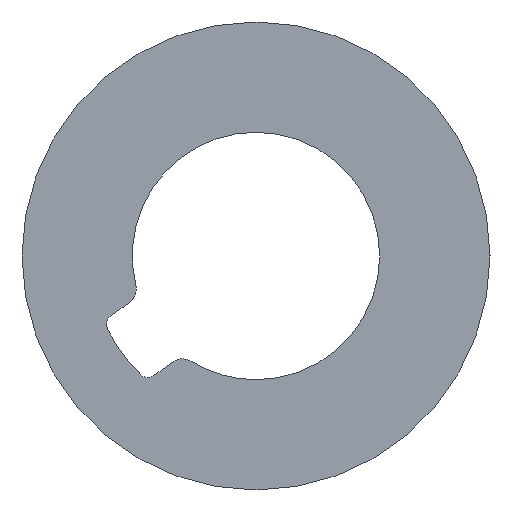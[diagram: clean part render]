
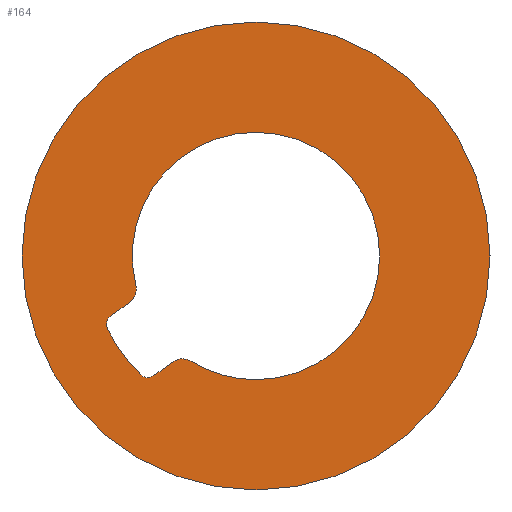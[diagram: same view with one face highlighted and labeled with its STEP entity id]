
A CAD part, left-side view. The second image highlights one B-rep face of the part: STEP entity #164.
In plain terms, the highlighted planar face has unit normal (-1, 0, 0).
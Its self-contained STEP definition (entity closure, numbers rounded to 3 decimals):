
#20 = AXIS2_PLACEMENT_3D ( 'NONE', #438, #437, #436 ) ;
#30 = AXIS2_PLACEMENT_3D ( 'NONE', #477, #476, #475 ) ;
#31 = AXIS2_PLACEMENT_3D ( 'NONE', #482, #481, #480 ) ;
#34 = AXIS2_PLACEMENT_3D ( 'NONE', #493, #492, #491 ) ;
#35 = AXIS2_PLACEMENT_3D ( 'NONE', #498, #497, #496 ) ;
#39 = AXIS2_PLACEMENT_3D ( 'NONE', #514, #513, #512 ) ;
#40 = AXIS2_PLACEMENT_3D ( 'NONE', #303, #302, #301 ) ;
#41 = AXIS2_PLACEMENT_3D ( 'NONE', #306, #305, #304 ) ;
#42 = AXIS2_PLACEMENT_3D ( 'NONE', #309, #308, #307 ) ;
#43 = AXIS2_PLACEMENT_3D ( 'NONE', #314, #313, #312 ) ;
#44 = AXIS2_PLACEMENT_3D ( 'NONE', #317, #316, #315 ) ;
#45 = AXIS2_PLACEMENT_3D ( 'NONE', #322, #321, #320 ) ;
#50 = EDGE_CURVE ( 'NONE', #350, #348, #198, .T. ) ;
#51 = EDGE_CURVE ( 'NONE', #337, #336, #199, .T. ) ;
#52 = EDGE_CURVE ( 'NONE', #336, #341, #196, .T. ) ;
#53 = EDGE_CURVE ( 'NONE', #342, #332, #194, .T. ) ;
#54 = EDGE_CURVE ( 'NONE', #332, #343, #195, .T. ) ;
#55 = EDGE_CURVE ( 'NONE', #343, #330, #192, .T. ) ;
#56 = EDGE_CURVE ( 'NONE', #335, #331, #191, .T. ) ;
#57 = EDGE_CURVE ( 'NONE', #331, #337, #189, .T. ) ;
#64 = EDGE_CURVE ( 'NONE', #330, #335, #177, .T. ) ;
#70 = EDGE_CURVE ( 'NONE', #341, #349, #101, .T. ) ;
#72 = EDGE_CURVE ( 'NONE', #354, #342, #122, .T. ) ;
#76 = EDGE_CURVE ( 'NONE', #349, #354, #113, .T. ) ;
#78 = EDGE_CURVE ( 'NONE', #348, #350, #125, .T. ) ;
#101 = CIRCLE ( 'NONE', #35, 3.7 ) ;
#113 = CIRCLE ( 'NONE', #31, 3.7 ) ;
#122 = CIRCLE ( 'NONE', #34, 3.7 ) ;
#125 = CIRCLE ( 'NONE', #30, 7. ) ;
#137 = FACE_BOUND ( 'NONE', #208, .T. ) ;
#147 = FACE_OUTER_BOUND ( 'NONE', #207, .T. ) ;
#164 = ADVANCED_FACE ( 'NONE', ( #147, #137 ), #439, .F. ) ;
#177 = CIRCLE ( 'NONE', #39, 0.3 ) ;
#189 = CIRCLE ( 'NONE', #40, 0.3 ) ;
#191 = CIRCLE ( 'NONE', #41, 4.95 ) ;
#192 = CIRCLE ( 'NONE', #42, 0.3 ) ;
#193 = VECTOR ( 'NONE', #310, 1000. ) ;
#194 = CIRCLE ( 'NONE', #43, 0.5 ) ;
#195 = LINE ( 'NONE', #311, #193 ) ;
#196 = CIRCLE ( 'NONE', #44, 0.5 ) ;
#197 = VECTOR ( 'NONE', #318, 1000. ) ;
#198 = CIRCLE ( 'NONE', #45, 7. ) ;
#199 = LINE ( 'NONE', #319, #197 ) ;
#207 = EDGE_LOOP ( 'NONE', ( #251, #252 ) ) ;
#208 = EDGE_LOOP ( 'NONE', ( #253, #254, #255, #256, #257, #258, #259, #260, #261, #262, #263 ) ) ;
#251 = ORIENTED_EDGE ( 'NONE', *, *, #50, .F. ) ;
#252 = ORIENTED_EDGE ( 'NONE', *, *, #78, .F. ) ;
#253 = ORIENTED_EDGE ( 'NONE', *, *, #51, .T. ) ;
#254 = ORIENTED_EDGE ( 'NONE', *, *, #52, .T. ) ;
#255 = ORIENTED_EDGE ( 'NONE', *, *, #70, .T. ) ;
#256 = ORIENTED_EDGE ( 'NONE', *, *, #76, .T. ) ;
#257 = ORIENTED_EDGE ( 'NONE', *, *, #72, .T. ) ;
#258 = ORIENTED_EDGE ( 'NONE', *, *, #53, .T. ) ;
#259 = ORIENTED_EDGE ( 'NONE', *, *, #54, .T. ) ;
#260 = ORIENTED_EDGE ( 'NONE', *, *, #55, .T. ) ;
#261 = ORIENTED_EDGE ( 'NONE', *, *, #64, .T. ) ;
#262 = ORIENTED_EDGE ( 'NONE', *, *, #56, .T. ) ;
#263 = ORIENTED_EDGE ( 'NONE', *, *, #57, .T. ) ;
#301 = DIRECTION ( 'NONE',  ( 0., 0., -1. ) ) ;
#302 = DIRECTION ( 'NONE',  ( 1., 0., 0. ) ) ;
#303 = CARTESIAN_POINT ( 'NONE',  ( -89.5, 4.176, -2.045 ) ) ;
#304 = DIRECTION ( 'NONE',  ( 0., 0., 1. ) ) ;
#305 = DIRECTION ( 'NONE',  ( 1., 0., 0. ) ) ;
#306 = CARTESIAN_POINT ( 'NONE',  ( -89.5, 0., 0. ) ) ;
#307 = DIRECTION ( 'NONE',  ( 0., 0., 1. ) ) ;
#308 = DIRECTION ( 'NONE',  ( 1., 0., 0. ) ) ;
#309 = CARTESIAN_POINT ( 'NONE',  ( -89.5, 3.236, -3.34 ) ) ;
#310 = DIRECTION ( 'NONE',  ( 0., 0.809, -0.588 ) ) ;
#311 = CARTESIAN_POINT ( 'NONE',  ( -89.5, 3.059, -3.582 ) ) ;
#312 = DIRECTION ( 'NONE',  ( 0., 0., -1. ) ) ;
#313 = DIRECTION ( 'NONE',  ( -1., 0., 0. ) ) ;
#314 = CARTESIAN_POINT ( 'NONE',  ( -89.5, 2.201, -3.577 ) ) ;
#315 = DIRECTION ( 'NONE',  ( 0., 0., 1. ) ) ;
#316 = DIRECTION ( 'NONE',  ( -1., 0., 0. ) ) ;
#317 = CARTESIAN_POINT ( 'NONE',  ( -89.5, 4.082, -0.988 ) ) ;
#318 = DIRECTION ( 'NONE',  ( 0., -0.809, 0.588 ) ) ;
#319 = CARTESIAN_POINT ( 'NONE',  ( -89.5, 3.788, -1.393 ) ) ;
#320 = DIRECTION ( 'NONE',  ( 0., 0., -1. ) ) ;
#321 = DIRECTION ( 'NONE',  ( 1., 0., 0. ) ) ;
#322 = CARTESIAN_POINT ( 'NONE',  ( -89.5, 0., 0. ) ) ;
#330 = VERTEX_POINT ( 'NONE', #397 ) ;
#331 = VERTEX_POINT ( 'NONE', #396 ) ;
#332 = VERTEX_POINT ( 'NONE', #395 ) ;
#335 = VERTEX_POINT ( 'NONE', #392 ) ;
#336 = VERTEX_POINT ( 'NONE', #391 ) ;
#337 = VERTEX_POINT ( 'NONE', #390 ) ;
#341 = VERTEX_POINT ( 'NONE', #386 ) ;
#342 = VERTEX_POINT ( 'NONE', #385 ) ;
#343 = VERTEX_POINT ( 'NONE', #384 ) ;
#348 = VERTEX_POINT ( 'NONE', #379 ) ;
#349 = VERTEX_POINT ( 'NONE', #378 ) ;
#350 = VERTEX_POINT ( 'NONE', #377 ) ;
#354 = VERTEX_POINT ( 'NONE', #373 ) ;
#373 = CARTESIAN_POINT ( 'NONE',  ( -89.5, 0., -3.7 ) ) ;
#377 = CARTESIAN_POINT ( 'NONE',  ( -89.5, 0., 7. ) ) ;
#378 = CARTESIAN_POINT ( 'NONE',  ( -89.5, 0., 3.7 ) ) ;
#379 = CARTESIAN_POINT ( 'NONE',  ( -89.5, 0., -7. ) ) ;
#384 = CARTESIAN_POINT ( 'NONE',  ( -89.5, 3.059, -3.582 ) ) ;
#385 = CARTESIAN_POINT ( 'NONE',  ( -89.5, 1.939, -3.151 ) ) ;
#386 = CARTESIAN_POINT ( 'NONE',  ( -89.5, 3.596, -0.87 ) ) ;
#390 = CARTESIAN_POINT ( 'NONE',  ( -89.5, 4.352, -1.803 ) ) ;
#391 = CARTESIAN_POINT ( 'NONE',  ( -89.5, 3.788, -1.393 ) ) ;
#392 = CARTESIAN_POINT ( 'NONE',  ( -89.5, 3.444, -3.555 ) ) ;
#395 = CARTESIAN_POINT ( 'NONE',  ( -89.5, 2.495, -3.172 ) ) ;
#396 = CARTESIAN_POINT ( 'NONE',  ( -89.5, 4.445, -2.177 ) ) ;
#397 = CARTESIAN_POINT ( 'NONE',  ( -89.5, 3.236, -3.64 ) ) ;
#436 = DIRECTION ( 'NONE',  ( 0., 0., -1. ) ) ;
#437 = DIRECTION ( 'NONE',  ( 1., 0., 0. ) ) ;
#438 = CARTESIAN_POINT ( 'NONE',  ( -89.5, 0., 0. ) ) ;
#439 = PLANE ( 'NONE',  #20 ) ;
#475 = DIRECTION ( 'NONE',  ( 0., 0., -1. ) ) ;
#476 = DIRECTION ( 'NONE',  ( 1., 0., 0. ) ) ;
#477 = CARTESIAN_POINT ( 'NONE',  ( -89.5, 0., 0. ) ) ;
#480 = DIRECTION ( 'NONE',  ( 0., 0., -1. ) ) ;
#481 = DIRECTION ( 'NONE',  ( 1., 0., 0. ) ) ;
#482 = CARTESIAN_POINT ( 'NONE',  ( -89.5, 0., 0. ) ) ;
#491 = DIRECTION ( 'NONE',  ( 0., 0., -1. ) ) ;
#492 = DIRECTION ( 'NONE',  ( 1., 0., 0. ) ) ;
#493 = CARTESIAN_POINT ( 'NONE',  ( -89.5, 0., 0. ) ) ;
#496 = DIRECTION ( 'NONE',  ( 0., 0., -1. ) ) ;
#497 = DIRECTION ( 'NONE',  ( 1., 0., 0. ) ) ;
#498 = CARTESIAN_POINT ( 'NONE',  ( -89.5, 0., 0. ) ) ;
#512 = DIRECTION ( 'NONE',  ( 0., 0., 1. ) ) ;
#513 = DIRECTION ( 'NONE',  ( 1., 0., 0. ) ) ;
#514 = CARTESIAN_POINT ( 'NONE',  ( -89.5, 3.236, -3.34 ) ) ;
